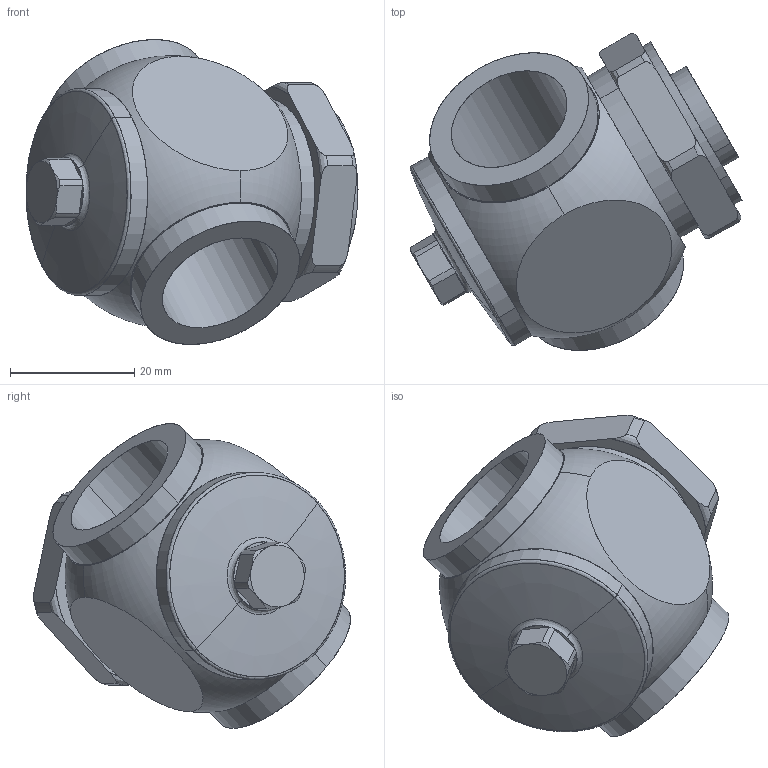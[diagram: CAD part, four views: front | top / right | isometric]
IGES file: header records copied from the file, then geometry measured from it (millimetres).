
Start section: SolidWorks IGES file using analytic representation for surfaces
Global section: file name: C:\Data\SAP_DOC_20200123_IRB390\Lättmodeller_IRB390\Final_4axis\IRB390_15kg_1300_STD_rev0_IGES_J\IRB390_X_1300_STD_UJ3_1_00.IGS; native system: SolidWorks 2018; preprocessor: SolidWorks 2018; author: sestdan2; date: 200204.161006; units: millimetre
Bounding box: 53.54 x 51.12 x 49.17 mm (x, y, z)
Surface area: 10411.3 mm2 (no closed solid volume)
Topology: 0 solids, 0 shells, 79 faces, 1928 edges, 1928 vertices
Faces by surface type: bspline 47, revolution 32
